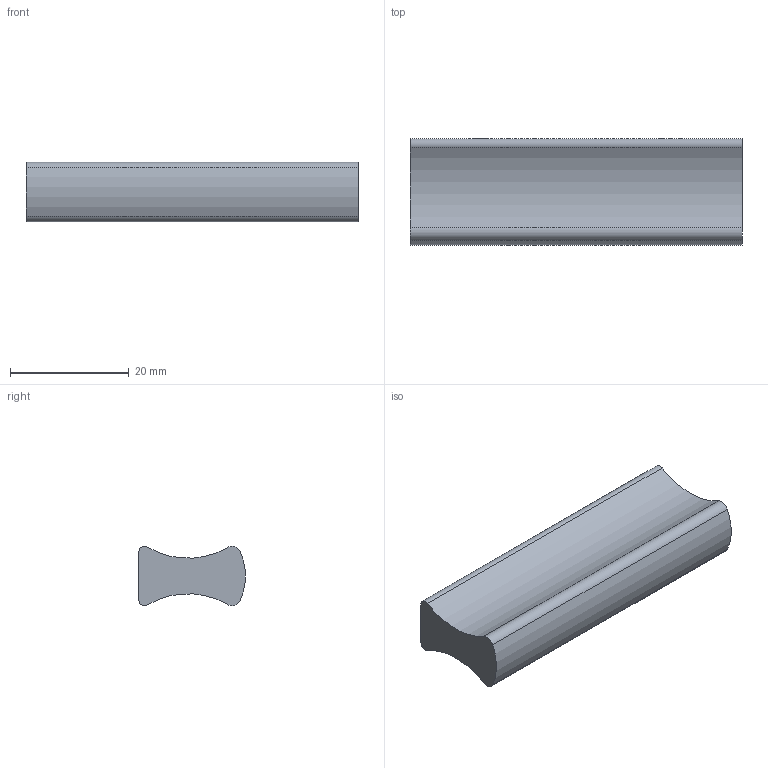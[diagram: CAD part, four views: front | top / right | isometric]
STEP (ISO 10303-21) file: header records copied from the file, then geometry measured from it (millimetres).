
FILE_DESCRIPTION( ( 'STEP AP214' ), '1' );
FILE_NAME( 'C:/Users/kulkarni/Desktop/Apurva/2015/Prodecor_2016/Cadfiles/kervo/9190436.stp', ' ', ( ' ' ), ( ' ' ), 'PSStep 15.0.47', 'PARTsolutions', ' ' );
FILE_SCHEMA( ( 'AUTOMOTIVE_DESIGN { 1 0 10303 214 1 1 1 1 }' ) );
Length unit declared in the file: millimetre
Products named in the file (1): _
Bounding box: 56 x 17.96 x 10 mm (x, y, z)
Volume: 7460.7 mm3; surface area: 3498 mm2
Topology: 1 solids, 1 shells, 14 faces, 30 edges, 20 vertices
Faces by surface type: cylinder 9, plane 5
Full cylindrical faces by diameter (mm): 4 x2
Entity records: 510 total; most frequent: DIRECTION 76, CARTESIAN_POINT 63, ORIENTED_EDGE 56, AXIS2_PLACEMENT_3D 33, EDGE_CURVE 28, VERTEX_POINT 20, EDGE_LOOP 18, CIRCLE 18
